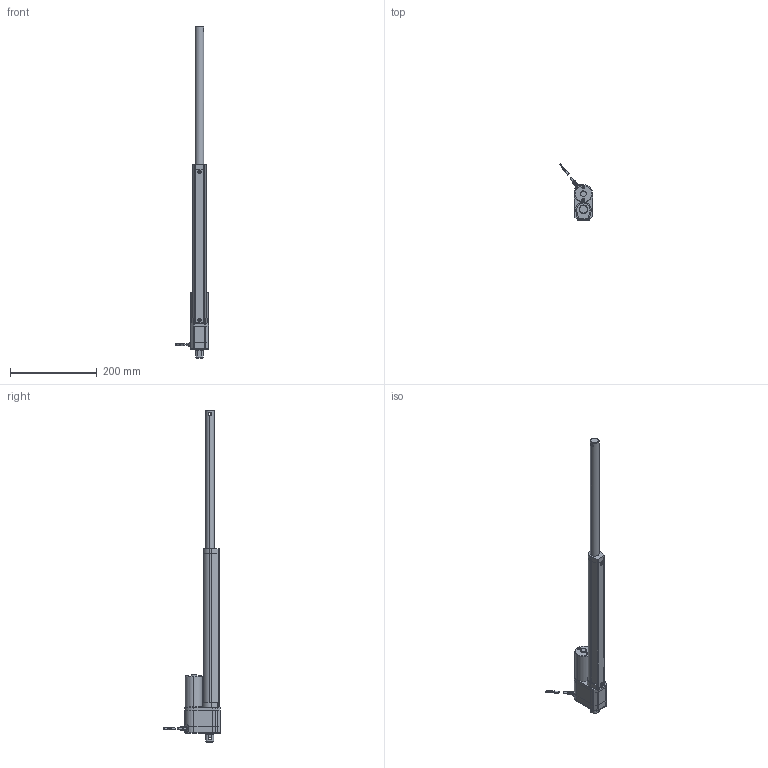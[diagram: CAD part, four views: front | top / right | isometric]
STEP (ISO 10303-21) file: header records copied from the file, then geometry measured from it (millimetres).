
FILE_DESCRIPTION (( 'STEP AP203' ), '1' );
FILE_NAME ('la3300pe.step', '2020-08-06T14:29:33', ( '' ), ( '' ), 'SwSTEP 2.0', 'SolidWorks 2017', '' );
FILE_SCHEMA (( 'CONFIG_CONTROL_DESIGN' ));
Length unit declared in the file: millimetre
Products named in the file (1): la3300pe
Bounding box: 76.3 x 130.49 x 767 mm (x, y, z)
Volume: 732267.4 mm3; surface area: 124263.1 mm2
Topology: 17 solids, 17 shells, 445 faces, 1086 edges, 710 vertices
Faces by surface type: plane 238, cylinder 171, torus 22, cone 10, bspline 4
Entity records: 16080 total; most frequent: CARTESIAN_POINT 5185, DIRECTION 2362, ORIENTED_EDGE 2172, EDGE_CURVE 1086, AXIS2_PLACEMENT_3D 854, VERTEX_POINT 710, LINE 654, VECTOR 654
